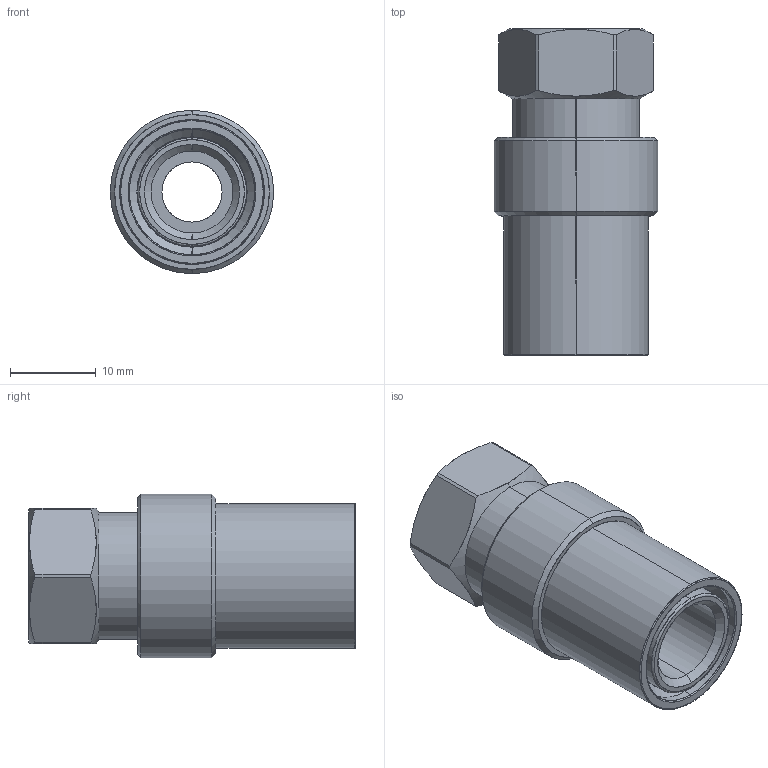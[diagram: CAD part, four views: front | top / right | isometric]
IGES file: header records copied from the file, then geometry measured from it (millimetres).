
Start section: SolidWorks IGES file using analytic representation for surfaces
Global section: file name: C:\Users\365admin\AppData\Local\Temp\InFlowConvert3DWorking\SC200B-4.igs; native system: SolidWorks 2019; preprocessor: SolidWorks 2019; author: 365admin; date: 220203.012242; units: inch
Bounding box: 19.05 x 38.1 x 19.05 mm (x, y, z)
Surface area: 6273.5 mm2 (no closed solid volume)
Topology: 0 solids, 0 shells, 93 faces, 1196 edges, 1196 vertices
Faces by surface type: revolution 60, bspline 33
